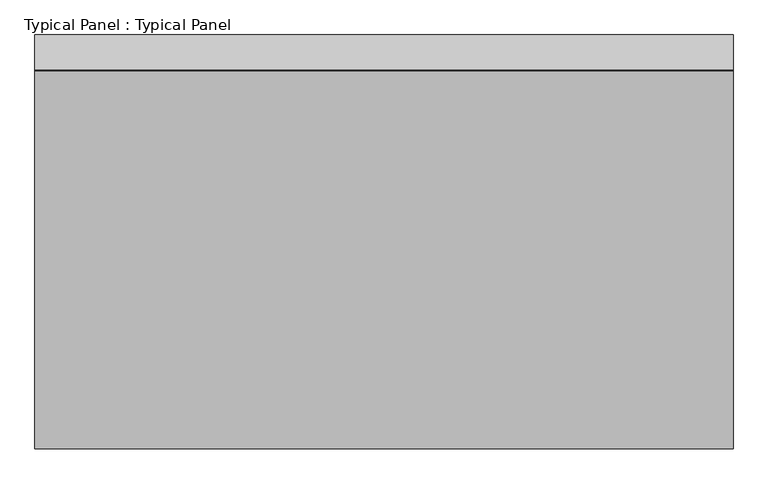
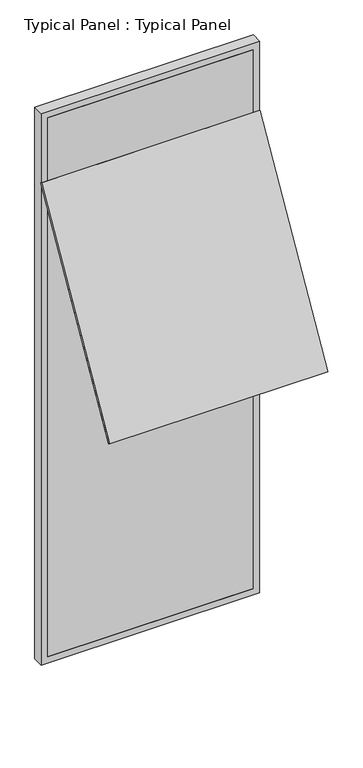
"""IFC4 building model written with IfcOpenShell, lengths in millimetres: plate geometry, Typical Panel : Typical Panel."""

from ifc_helpers import new_model, si_unit, frame, origin, place, context, project, spatial, polyline, outline, extrude, source, transform, mapped, element, save


def typical_panel_typical_panel_16c89cbd(model_context):
    return source(origin(), model_context, "Body", "SweptSolid", [
        extrude(outline(polyline([(0.0, -10.0), (0.0, 0.0), (1500.0, 0.0), (1500.0, -10.0), (0.0, -10.0)])), frame((750.0, -815.0, 2097.0388459), z_axis=(0.0, 0.5000000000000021, 0.8660254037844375), x_axis=(-1.0, 0.0, 0.0)), (0.0, 0.0, 1.0), 1620.0),
        extrude(outline(polyline([(0.0, -750.0), (0.0, 750.0), (4000.0, 750.0), (4000.0, -750.0), (0.0, -750.0)]), holes=[polyline([(45.0, 705.0), (45.0, -705.0), (3955.0, -705.0), (3955.0, 705.0), (45.0, 705.0)])]), frame((0.0, -1.5797986, 0.0), z_axis=(0.0, 1.0, 0.0), x_axis=(0.0, 0.0, 1.0)), (0.0, 0.0, 1.0), 75.0),
        extrude(outline(polyline([(705.0, -1.5797986), (-705.0, -1.5797986), (-705.0, 13.4202014), (705.0, 13.4202014), (705.0, -1.5797986)])), frame((0.0, 0.0, 45.0), z_axis=(0.0, 0.0, 1.0), x_axis=(1.0, 0.0, 0.0)), (0.0, 0.0, 1.0), 3910.0),
    ])


if __name__ == "__main__":
    model = new_model("IFC4")
    model_context = context("Model", 3, world=origin())
    ifc_project = project(units=[si_unit("LENGTHUNIT", "METRE", prefix="MILLI")], contexts=[model_context])
    site = spatial("IfcSite", under=ifc_project)
    building = spatial("IfcBuilding", under=site)
    placement = place(None, origin())
    typical_panel_typical_panel_shape = typical_panel_typical_panel_16c89cbd(model_context)
    element("IfcPlate", 1, ObjectType="Typical Panel : Typical Panel", at=placement, inside=building, context=model_context, shape_type="MappedRepresentation", body=[
        mapped(typical_panel_typical_panel_shape, transform((0.0, 0.0, 0.0), x_axis=(1.0, 0.0, 0.0), y_axis=(0.0, 1.0, 0.0), z_axis=(0.0, 0.0, 1.0))),
    ])
    save(model, "model.ifc")
